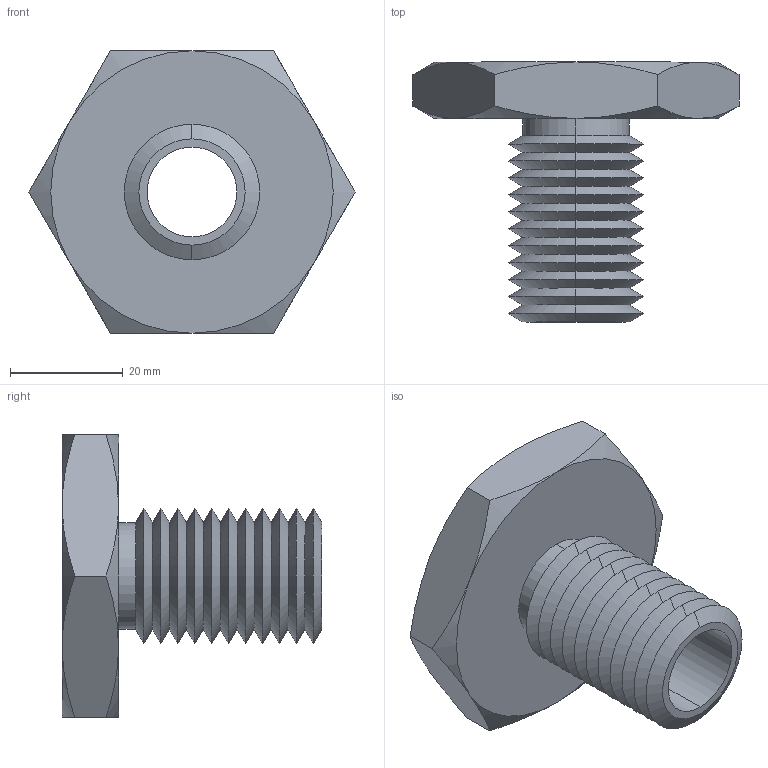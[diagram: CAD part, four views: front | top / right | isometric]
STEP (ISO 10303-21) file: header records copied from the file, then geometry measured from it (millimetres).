
FILE_DESCRIPTION (( 'STEP AP203' ), '1' );
FILE_NAME ('63302.W0024_0,62 UNC-11.step', '2013-12-08T11:05:02', ( 'User' ), ( '' ), 'SwSTEP 2.0', 'SolidWorks 2009', '' );
FILE_SCHEMA (( 'CONFIG_CONTROL_DESIGN' ));
Length unit declared in the file: millimetre
Products named in the file (1): 63302.W0024_0,62 UNC-11
Bounding box: 57.73 x 46 x 50 mm (x, y, z)
Volume: 24885.6 mm3; surface area: 12312.2 mm2
Topology: 1 solids, 1 shells, 71 faces, 146 edges, 78 vertices
Faces by surface type: cone 58, plane 9, cylinder 4
Entity records: 2039 total; most frequent: CARTESIAN_POINT 480, DIRECTION 332, ORIENTED_EDGE 292, EDGE_CURVE 146, AXIS2_PLACEMENT_3D 138, VERTEX_POINT 78, EDGE_LOOP 74, ADVANCED_FACE 71
